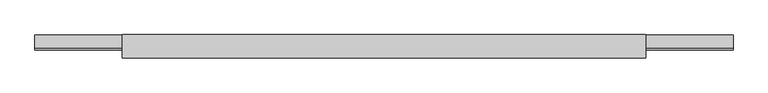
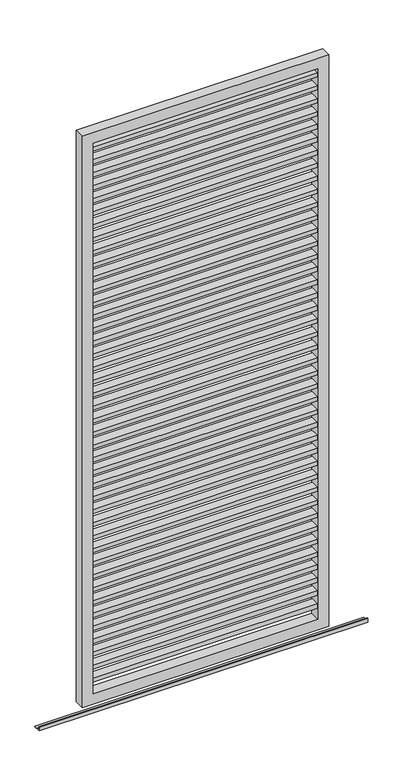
"""IFC4 building model written with IfcOpenShell, lengths in millimetres: proxy geometry, Renson_Amani_Loggia_Plano_Sliding : Renson_Amani_Loggia_Plano_Sliding."""

from ifc_helpers import new_model, si_unit, frame, origin, place, context, project, spatial, polyline, outline, extrude, source, transform, mapped, element, save


def generic_models_5fc33dbc(model_context):
    return source(origin(), model_context, "Body", "SweptSolid", [
        extrude(outline(polyline([(410.0, 16.5), (410.0, -16.5), (-410.0, -16.5), (-410.0, 16.5), (410.0, 16.5)])), frame((0.0, 0.0, 2177.0), z_axis=(0.0, 0.0, 1.0), x_axis=(1.0, 0.0, 0.0)), (0.0, 0.0, 1.0), 16.0),
        extrude(outline(polyline([(410.0, 16.5), (410.0, -16.5), (-410.0, -16.5), (-410.0, 16.5), (410.0, 16.5)])), frame((0.0, 0.0, 2127.0), z_axis=(0.0, 0.0, 1.0), x_axis=(1.0, 0.0, 0.0)), (0.0, 0.0, 1.0), 16.0),
        extrude(outline(polyline([(410.0, 16.5), (410.0, -16.5), (-410.0, -16.5), (-410.0, 16.5), (410.0, 16.5)])), frame((0.0, 0.0, 2077.0), z_axis=(0.0, 0.0, 1.0), x_axis=(1.0, 0.0, 0.0)), (0.0, 0.0, 1.0), 16.0),
        extrude(outline(polyline([(410.0, 16.5), (410.0, -16.5), (-410.0, -16.5), (-410.0, 16.5), (410.0, 16.5)])), frame((0.0, 0.0, 2027.0), z_axis=(0.0, 0.0, 1.0), x_axis=(1.0, 0.0, 0.0)), (0.0, 0.0, 1.0), 16.0),
        extrude(outline(polyline([(410.0, 16.5), (410.0, -16.5), (-410.0, -16.5), (-410.0, 16.5), (410.0, 16.5)])), frame((0.0, 0.0, 1977.0), z_axis=(0.0, 0.0, 1.0), x_axis=(1.0, 0.0, 0.0)), (0.0, 0.0, 1.0), 16.0),
        extrude(outline(polyline([(410.0, 16.5), (410.0, -16.5), (-410.0, -16.5), (-410.0, 16.5), (410.0, 16.5)])), frame((0.0, 0.0, 1927.0), z_axis=(0.0, 0.0, 1.0), x_axis=(1.0, 0.0, 0.0)), (0.0, 0.0, 1.0), 16.0),
        extrude(outline(polyline([(410.0, 16.5), (410.0, -16.5), (-410.0, -16.5), (-410.0, 16.5), (410.0, 16.5)])), frame((0.0, 0.0, 1877.0), z_axis=(0.0, 0.0, 1.0), x_axis=(1.0, 0.0, 0.0)), (0.0, 0.0, 1.0), 16.0),
        extrude(outline(polyline([(410.0, 16.5), (410.0, -16.5), (-410.0, -16.5), (-410.0, 16.5), (410.0, 16.5)])), frame((0.0, 0.0, 1827.0), z_axis=(0.0, 0.0, 1.0), x_axis=(1.0, 0.0, 0.0)), (0.0, 0.0, 1.0), 16.0),
        extrude(outline(polyline([(410.0, 16.5), (410.0, -16.5), (-410.0, -16.5), (-410.0, 16.5), (410.0, 16.5)])), frame((0.0, 0.0, 1777.0), z_axis=(0.0, 0.0, 1.0), x_axis=(1.0, 0.0, 0.0)), (0.0, 0.0, 1.0), 16.0),
        extrude(outline(polyline([(410.0, 16.5), (410.0, -16.5), (-410.0, -16.5), (-410.0, 16.5), (410.0, 16.5)])), frame((0.0, 0.0, 1727.0), z_axis=(0.0, 0.0, 1.0), x_axis=(1.0, 0.0, 0.0)), (0.0, 0.0, 1.0), 16.0),
        extrude(outline(polyline([(410.0, 16.5), (410.0, -16.5), (-410.0, -16.5), (-410.0, 16.5), (410.0, 16.5)])), frame((0.0, 0.0, 1677.0), z_axis=(0.0, 0.0, 1.0), x_axis=(1.0, 0.0, 0.0)), (0.0, 0.0, 1.0), 16.0),
        extrude(outline(polyline([(410.0, 16.5), (410.0, -16.5), (-410.0, -16.5), (-410.0, 16.5), (410.0, 16.5)])), frame((0.0, 0.0, 1627.0), z_axis=(0.0, 0.0, 1.0), x_axis=(1.0, 0.0, 0.0)), (0.0, 0.0, 1.0), 16.0),
        extrude(outline(polyline([(410.0, 16.5), (410.0, -16.5), (-410.0, -16.5), (-410.0, 16.5), (410.0, 16.5)])), frame((0.0, 0.0, 1577.0), z_axis=(0.0, 0.0, 1.0), x_axis=(1.0, 0.0, 0.0)), (0.0, 0.0, 1.0), 16.0),
        extrude(outline(polyline([(410.0, 16.5), (410.0, -16.5), (-410.0, -16.5), (-410.0, 16.5), (410.0, 16.5)])), frame((0.0, 0.0, 1527.0), z_axis=(0.0, 0.0, 1.0), x_axis=(1.0, 0.0, 0.0)), (0.0, 0.0, 1.0), 16.0),
        extrude(outline(polyline([(410.0, 16.5), (410.0, -16.5), (-410.0, -16.5), (-410.0, 16.5), (410.0, 16.5)])), frame((0.0, 0.0, 1477.0), z_axis=(0.0, 0.0, 1.0), x_axis=(1.0, 0.0, 0.0)), (0.0, 0.0, 1.0), 16.0),
        extrude(outline(polyline([(410.0, 16.5), (410.0, -16.5), (-410.0, -16.5), (-410.0, 16.5), (410.0, 16.5)])), frame((0.0, 0.0, 1427.0), z_axis=(0.0, 0.0, 1.0), x_axis=(1.0, 0.0, 0.0)), (0.0, 0.0, 1.0), 16.0),
        extrude(outline(polyline([(410.0, 16.5), (410.0, -16.5), (-410.0, -16.5), (-410.0, 16.5), (410.0, 16.5)])), frame((0.0, 0.0, 1377.0), z_axis=(0.0, 0.0, 1.0), x_axis=(1.0, 0.0, 0.0)), (0.0, 0.0, 1.0), 16.0),
        extrude(outline(polyline([(410.0, 16.5), (410.0, -16.5), (-410.0, -16.5), (-410.0, 16.5), (410.0, 16.5)])), frame((0.0, 0.0, 1327.0), z_axis=(0.0, 0.0, 1.0), x_axis=(1.0, 0.0, 0.0)), (0.0, 0.0, 1.0), 16.0),
        extrude(outline(polyline([(410.0, 16.5), (410.0, -16.5), (-410.0, -16.5), (-410.0, 16.5), (410.0, 16.5)])), frame((0.0, 0.0, 1277.0), z_axis=(0.0, 0.0, 1.0), x_axis=(1.0, 0.0, 0.0)), (0.0, 0.0, 1.0), 16.0),
        extrude(outline(polyline([(410.0, 16.5), (410.0, -16.5), (-410.0, -16.5), (-410.0, 16.5), (410.0, 16.5)])), frame((0.0, 0.0, 1227.0), z_axis=(0.0, 0.0, 1.0), x_axis=(1.0, 0.0, 0.0)), (0.0, 0.0, 1.0), 16.0),
        extrude(outline(polyline([(410.0, 16.5), (410.0, -16.5), (-410.0, -16.5), (-410.0, 16.5), (410.0, 16.5)])), frame((0.0, 0.0, 1177.0), z_axis=(0.0, 0.0, 1.0), x_axis=(1.0, 0.0, 0.0)), (0.0, 0.0, 1.0), 16.0),
        extrude(outline(polyline([(410.0, 16.5), (410.0, -16.5), (-410.0, -16.5), (-410.0, 16.5), (410.0, 16.5)])), frame((0.0, 0.0, 1127.0), z_axis=(0.0, 0.0, 1.0), x_axis=(1.0, 0.0, 0.0)), (0.0, 0.0, 1.0), 16.0),
        extrude(outline(polyline([(410.0, 16.5), (410.0, -16.5), (-410.0, -16.5), (-410.0, 16.5), (410.0, 16.5)])), frame((0.0, 0.0, 1077.0), z_axis=(0.0, 0.0, 1.0), x_axis=(1.0, 0.0, 0.0)), (0.0, 0.0, 1.0), 16.0),
        extrude(outline(polyline([(410.0, 16.5), (410.0, -16.5), (-410.0, -16.5), (-410.0, 16.5), (410.0, 16.5)])), frame((0.0, 0.0, 1027.0), z_axis=(0.0, 0.0, 1.0), x_axis=(1.0, 0.0, 0.0)), (0.0, 0.0, 1.0), 16.0),
        extrude(outline(polyline([(410.0, 16.5), (410.0, -16.5), (-410.0, -16.5), (-410.0, 16.5), (410.0, 16.5)])), frame((0.0, 0.0, 977.0), z_axis=(0.0, 0.0, 1.0), x_axis=(1.0, 0.0, 0.0)), (0.0, 0.0, 1.0), 16.0),
        extrude(outline(polyline([(410.0, 16.5), (410.0, -16.5), (-410.0, -16.5), (-410.0, 16.5), (410.0, 16.5)])), frame((0.0, 0.0, 927.0), z_axis=(0.0, 0.0, 1.0), x_axis=(1.0, 0.0, 0.0)), (0.0, 0.0, 1.0), 16.0),
        extrude(outline(polyline([(410.0, 16.5), (410.0, -16.5), (-410.0, -16.5), (-410.0, 16.5), (410.0, 16.5)])), frame((0.0, 0.0, 877.0), z_axis=(0.0, 0.0, 1.0), x_axis=(1.0, 0.0, 0.0)), (0.0, 0.0, 1.0), 16.0),
        extrude(outline(polyline([(410.0, 16.5), (410.0, -16.5), (-410.0, -16.5), (-410.0, 16.5), (410.0, 16.5)])), frame((0.0, 0.0, 827.0), z_axis=(0.0, 0.0, 1.0), x_axis=(1.0, 0.0, 0.0)), (0.0, 0.0, 1.0), 16.0),
        extrude(outline(polyline([(410.0, 16.5), (410.0, -16.5), (-410.0, -16.5), (-410.0, 16.5), (410.0, 16.5)])), frame((0.0, 0.0, 777.0), z_axis=(0.0, 0.0, 1.0), x_axis=(1.0, 0.0, 0.0)), (0.0, 0.0, 1.0), 16.0),
        extrude(outline(polyline([(410.0, 16.5), (410.0, -16.5), (-410.0, -16.5), (-410.0, 16.5), (410.0, 16.5)])), frame((0.0, 0.0, 727.0), z_axis=(0.0, 0.0, 1.0), x_axis=(1.0, 0.0, 0.0)), (0.0, 0.0, 1.0), 16.0),
        extrude(outline(polyline([(410.0, 16.5), (410.0, -16.5), (-410.0, -16.5), (-410.0, 16.5), (410.0, 16.5)])), frame((0.0, 0.0, 677.0), z_axis=(0.0, 0.0, 1.0), x_axis=(1.0, 0.0, 0.0)), (0.0, 0.0, 1.0), 16.0),
        extrude(outline(polyline([(410.0, 16.5), (410.0, -16.5), (-410.0, -16.5), (-410.0, 16.5), (410.0, 16.5)])), frame((0.0, 0.0, 627.0), z_axis=(0.0, 0.0, 1.0), x_axis=(1.0, 0.0, 0.0)), (0.0, 0.0, 1.0), 16.0),
        extrude(outline(polyline([(410.0, 16.5), (410.0, -16.5), (-410.0, -16.5), (-410.0, 16.5), (410.0, 16.5)])), frame((0.0, 0.0, 577.0), z_axis=(0.0, 0.0, 1.0), x_axis=(1.0, 0.0, 0.0)), (0.0, 0.0, 1.0), 16.0),
        extrude(outline(polyline([(410.0, 16.5), (410.0, -16.5), (-410.0, -16.5), (-410.0, 16.5), (410.0, 16.5)])), frame((0.0, 0.0, 527.0), z_axis=(0.0, 0.0, 1.0), x_axis=(1.0, 0.0, 0.0)), (0.0, 0.0, 1.0), 16.0),
        extrude(outline(polyline([(410.0, 16.5), (410.0, -16.5), (-410.0, -16.5), (-410.0, 16.5), (410.0, 16.5)])), frame((0.0, 0.0, 477.0), z_axis=(0.0, 0.0, 1.0), x_axis=(1.0, 0.0, 0.0)), (0.0, 0.0, 1.0), 16.0),
        extrude(outline(polyline([(410.0, 16.5), (410.0, -16.5), (-410.0, -16.5), (-410.0, 16.5), (410.0, 16.5)])), frame((0.0, 0.0, 427.0), z_axis=(0.0, 0.0, 1.0), x_axis=(1.0, 0.0, 0.0)), (0.0, 0.0, 1.0), 16.0),
        extrude(outline(polyline([(410.0, 16.5), (410.0, -16.5), (-410.0, -16.5), (-410.0, 16.5), (410.0, 16.5)])), frame((0.0, 0.0, 377.0), z_axis=(0.0, 0.0, 1.0), x_axis=(1.0, 0.0, 0.0)), (0.0, 0.0, 1.0), 16.0),
        extrude(outline(polyline([(410.0, 16.5), (410.0, -16.5), (-410.0, -16.5), (-410.0, 16.5), (410.0, 16.5)])), frame((0.0, 0.0, 327.0), z_axis=(0.0, 0.0, 1.0), x_axis=(1.0, 0.0, 0.0)), (0.0, 0.0, 1.0), 16.0),
        extrude(outline(polyline([(410.0, 16.5), (410.0, -16.5), (-410.0, -16.5), (-410.0, 16.5), (410.0, 16.5)])), frame((0.0, 0.0, 277.0), z_axis=(0.0, 0.0, 1.0), x_axis=(1.0, 0.0, 0.0)), (0.0, 0.0, 1.0), 16.0),
        extrude(outline(polyline([(410.0, 16.5), (410.0, -16.5), (-410.0, -16.5), (-410.0, 16.5), (410.0, 16.5)])), frame((0.0, 0.0, 227.0), z_axis=(0.0, 0.0, 1.0), x_axis=(1.0, 0.0, 0.0)), (0.0, 0.0, 1.0), 16.0),
        extrude(outline(polyline([(410.0, 16.5), (410.0, -16.5), (-410.0, -16.5), (-410.0, 16.5), (410.0, 16.5)])), frame((0.0, 0.0, 177.0), z_axis=(0.0, 0.0, 1.0), x_axis=(1.0, 0.0, 0.0)), (0.0, 0.0, 1.0), 16.0),
        extrude(outline(polyline([(410.0, 16.5), (410.0, -16.5), (-410.0, -16.5), (-410.0, 16.5), (410.0, 16.5)])), frame((0.0, 0.0, 127.0), z_axis=(0.0, 0.0, 1.0), x_axis=(1.0, 0.0, 0.0)), (0.0, 0.0, 1.0), 16.0),
        extrude(outline(polyline([(-6.0, 15.0), (-3.0, 15.0), (-3.0, 3.0), (20.0, 3.0), (20.0, 0.0), (-6.0, 0.0), (-6.0, 15.0)])), frame((-600.0, 0.0, 0.0), z_axis=(1.0, 0.0, 0.0), x_axis=(0.0, 1.0, 0.0)), (0.0, 0.0, 1.0), 1200.0),
        extrude(outline(polyline([(2250.0, -450.0), (45.0, -450.0), (45.0, 450.0), (2250.0, 450.0), (2250.0, -450.0)]), holes=[polyline([(2210.0, 410.0), (85.0, 410.0), (85.0, -410.0), (2210.0, -410.0), (2210.0, 410.0)])]), frame((0.0, -20.0, 0.0), z_axis=(0.0, 1.0, 0.0), x_axis=(0.0, 0.0, 1.0)), (0.0, 0.0, 1.0), 40.0),
    ])


if __name__ == "__main__":
    model = new_model("IFC4")
    model_context = context("Model", 3, world=origin())
    ifc_project = project(units=[si_unit("LENGTHUNIT", "METRE", prefix="MILLI")], contexts=[model_context])
    site = spatial("IfcSite", under=ifc_project)
    building = spatial("IfcBuilding", under=site)
    placement = place(None, origin())
    generic_models_shape = generic_models_5fc33dbc(model_context)
    element("IfcBuildingElementProxy", 1, Name="Renson_Amani_Loggia_Plano_Sliding : Renson_Amani_Loggia_Plano_Sliding", ObjectType="Renson_Amani_Loggia_Plano_Sliding : Renson_Amani_Loggia_Plano_Sliding", at=placement, inside=building, context=model_context, shape_type="MappedRepresentation", body=[
        mapped(generic_models_shape, transform((0.0, 0.0, 0.0), x_axis=(1.0, 0.0, 0.0), y_axis=(0.0, 1.0, 0.0), z_axis=(0.0, 0.0, 1.0))),
    ])
    save(model, "model.ifc")
